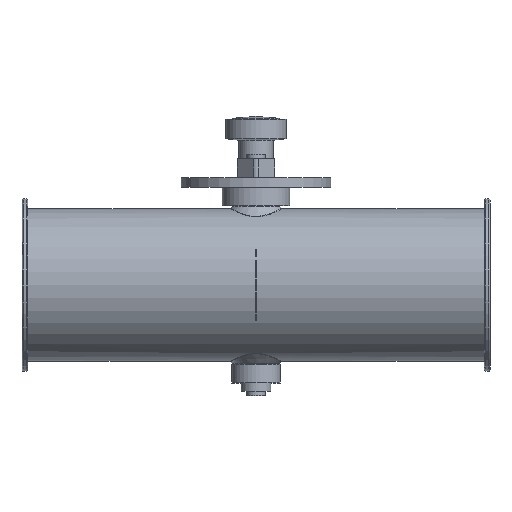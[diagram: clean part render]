
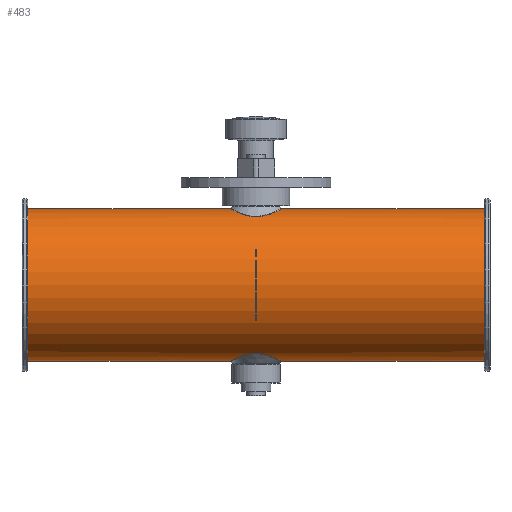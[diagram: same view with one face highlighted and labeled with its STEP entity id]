
A CAD part, top view. The second image highlights one B-rep face of the part: STEP entity #483.
In plain terms, the highlighted cylindrical face has radius 40.8 mm (diameter 81.6 mm), a full revolution.
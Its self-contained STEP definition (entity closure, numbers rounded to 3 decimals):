
#113=B_SPLINE_CURVE_WITH_KNOTS('',3,(#2129,#2130,#2131,#2132,#2133,#2134,
#2135,#2136,#2137,#2138,#2139,#2140,#2141,#2142,#2143,#2144,#2145,#2146,
#2147,#2148,#2149,#2150,#2151,#2152,#2153,#2154,#2155,#2156),.UNSPECIFIED.,
 .T.,.F.,(2,2,2,2,2,2,2,2,2,2,2,2,2,2,2,2),(-0.063,0.,0.125,
0.25,0.313,0.375,0.438,
0.5,0.563,0.625,0.75,0.813,0.875,
0.938,1.,1.125),.UNSPECIFIED.);
#114=B_SPLINE_CURVE_WITH_KNOTS('',3,(#2158,#2159,#2160,#2161,#2162,#2163,
#2164,#2165,#2166,#2167,#2168,#2169,#2170,#2171,#2172,#2173,#2174,#2175,
#2176,#2177,#2178,#2179,#2180,#2181,#2182,#2183,#2184,#2185,#2186,#2187),
 .UNSPECIFIED.,.T.,.F.,(2,2,2,2,2,2,2,2,2,2,2,2,2,2,2,2,2),(-0.063,
0.,0.062,0.125,0.188,0.25,0.375,0.438,0.5,0.563,
0.625,0.688,0.75,0.875,0.938,1.,1.063),.UNSPECIFIED.);
#254=CYLINDRICAL_SURFACE('',#1454,40.8);
#343=FACE_BOUND('',#691,.T.);
#344=FACE_BOUND('',#692,.T.);
#345=FACE_BOUND('',#693,.T.);
#346=FACE_BOUND('',#694,.T.);
#483=ADVANCED_FACE('',(#343,#344,#345,#346),#254,.T.);
#691=EDGE_LOOP('',(#947));
#692=EDGE_LOOP('',(#948));
#693=EDGE_LOOP('',(#949));
#694=EDGE_LOOP('',(#950));
#947=ORIENTED_EDGE('',*,*,#1227,.T.);
#948=ORIENTED_EDGE('',*,*,#1228,.T.);
#949=ORIENTED_EDGE('',*,*,#1229,.T.);
#950=ORIENTED_EDGE('',*,*,#1230,.F.);
#1099=VERTEX_POINT('',#2128);
#1100=VERTEX_POINT('',#2157);
#1101=VERTEX_POINT('',#2188);
#1102=VERTEX_POINT('',#2190);
#1227=EDGE_CURVE('',#1099,#1099,#1313,.T.);
#1228=EDGE_CURVE('',#1100,#1100,#113,.T.);
#1229=EDGE_CURVE('',#1101,#1101,#114,.T.);
#1230=EDGE_CURVE('',#1102,#1102,#1314,.T.);
#1313=CIRCLE('',#1452,40.8);
#1314=CIRCLE('',#1453,40.8);
#1452=AXIS2_PLACEMENT_3D('',#2127,#1774,#1775);
#1453=AXIS2_PLACEMENT_3D('',#2189,#1776,#1777);
#1454=AXIS2_PLACEMENT_3D('',#2191,#1778,#1779);
#1774=DIRECTION('',(1.,0.,0.));
#1775=DIRECTION('',(0.,0.,1.));
#1776=DIRECTION('',(1.,0.,0.));
#1777=DIRECTION('',(0.,0.,1.));
#1778=DIRECTION('',(1.,0.,0.));
#1779=DIRECTION('',(0.,0.,-1.));
#2127=CARTESIAN_POINT('',(-122.,1.7,125.));
#2128=CARTESIAN_POINT('',(-122.,1.7,165.8));
#2129=CARTESIAN_POINT('',(-5.395,-35.522,108.233));
#2130=CARTESIAN_POINT('',(-10.314,-37.121,112.136));
#2131=CARTESIAN_POINT('',(-12.526,-38.286,115.893));
#2132=CARTESIAN_POINT('',(-14.573,-39.3,124.113));
#2133=CARTESIAN_POINT('',(-14.278,-39.137,128.606));
#2134=CARTESIAN_POINT('',(-11.972,-38.029,134.501));
#2135=CARTESIAN_POINT('',(-10.92,-37.535,136.319));
#2136=CARTESIAN_POINT('',(-8.287,-36.464,139.527));
#2137=CARTESIAN_POINT('',(-6.711,-35.88,140.922));
#2138=CARTESIAN_POINT('',(-2.997,-34.995,142.868));
#2139=CARTESIAN_POINT('',(-0.776,-34.74,143.354));
#2140=CARTESIAN_POINT('',(3.453,-35.035,142.757));
#2141=CARTESIAN_POINT('',(5.401,-35.524,141.764));
#2142=CARTESIAN_POINT('',(8.676,-36.588,139.164));
#2143=CARTESIAN_POINT('',(10.013,-37.153,137.588));
#2144=CARTESIAN_POINT('',(12.212,-38.133,134.022));
#2145=CARTESIAN_POINT('',(13.03,-38.535,132.078));
#2146=CARTESIAN_POINT('',(14.58,-39.303,125.868));
#2147=CARTESIAN_POINT('',(14.29,-39.142,121.43));
#2148=CARTESIAN_POINT('',(11.972,-38.029,115.496));
#2149=CARTESIAN_POINT('',(10.935,-37.541,113.701));
#2150=CARTESIAN_POINT('',(8.286,-36.463,110.47));
#2151=CARTESIAN_POINT('',(6.716,-35.882,109.082));
#2152=CARTESIAN_POINT('',(2.997,-34.995,107.132));
#2153=CARTESIAN_POINT('',(0.781,-34.74,106.646));
#2154=CARTESIAN_POINT('',(-3.455,-35.035,107.243));
#2155=CARTESIAN_POINT('',(-5.395,-35.522,108.233));
#2156=CARTESIAN_POINT('',(-10.314,-37.121,112.136));
#2157=CARTESIAN_POINT('',(-7.035,-36.055,109.534));
#2158=CARTESIAN_POINT('',(-8.677,39.989,110.837));
#2159=CARTESIAN_POINT('',(-5.393,38.921,108.231));
#2160=CARTESIAN_POINT('',(-3.45,38.434,107.241));
#2161=CARTESIAN_POINT('',(0.792,38.14,106.646));
#2162=CARTESIAN_POINT('',(3.004,38.396,107.134));
#2163=CARTESIAN_POINT('',(6.717,39.282,109.083));
#2164=CARTESIAN_POINT('',(8.288,39.864,110.473));
#2165=CARTESIAN_POINT('',(10.931,40.94,113.696));
#2166=CARTESIAN_POINT('',(11.98,41.432,115.513));
#2167=CARTESIAN_POINT('',(14.288,42.542,121.434));
#2168=CARTESIAN_POINT('',(14.582,42.704,125.865));
#2169=CARTESIAN_POINT('',(13.027,41.934,132.088));
#2170=CARTESIAN_POINT('',(12.211,41.533,134.023));
#2171=CARTESIAN_POINT('',(10.01,40.552,137.592));
#2172=CARTESIAN_POINT('',(8.677,39.989,139.161));
#2173=CARTESIAN_POINT('',(5.414,38.928,141.755));
#2174=CARTESIAN_POINT('',(3.469,38.437,142.752));
#2175=CARTESIAN_POINT('',(-0.771,38.14,143.355));
#2176=CARTESIAN_POINT('',(-2.988,38.393,142.871));
#2177=CARTESIAN_POINT('',(-6.705,39.278,140.927));
#2178=CARTESIAN_POINT('',(-8.278,39.86,139.536));
#2179=CARTESIAN_POINT('',(-10.923,40.936,136.316));
#2180=CARTESIAN_POINT('',(-11.974,41.429,134.5));
#2181=CARTESIAN_POINT('',(-14.288,42.542,128.573));
#2182=CARTESIAN_POINT('',(-14.582,42.704,124.14));
#2183=CARTESIAN_POINT('',(-13.03,41.935,117.919));
#2184=CARTESIAN_POINT('',(-12.213,41.533,115.98));
#2185=CARTESIAN_POINT('',(-10.013,40.553,112.411));
#2186=CARTESIAN_POINT('',(-8.677,39.989,110.837));
#2187=CARTESIAN_POINT('',(-5.393,38.921,108.231));
#2188=CARTESIAN_POINT('',(-7.035,39.455,109.534));
#2189=CARTESIAN_POINT('',(122.,1.7,125.));
#2190=CARTESIAN_POINT('',(122.,1.7,165.8));
#2191=CARTESIAN_POINT('',(-125.,1.7,125.));
